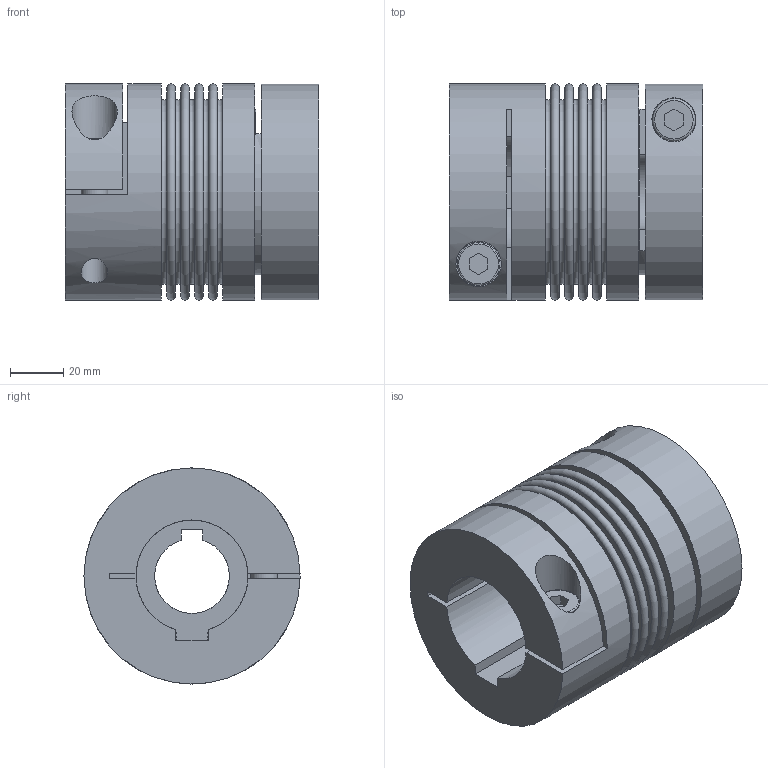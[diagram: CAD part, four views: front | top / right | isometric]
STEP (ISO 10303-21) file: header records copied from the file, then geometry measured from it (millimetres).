
FILE_DESCRIPTION(/* description */ ('STEP AP214'),/* implementation_level */ '2;1');
FILE_NAME(/* name */ 'C:\Diequa Files\DieQua Coupling\BCB\STP\BCB.150.95.#.#.stp',/* time_stamp */ '2018-11-27T08:23:08-06:00',/* author */ ('DiequaCAD'),/* organization */ (''),/* preprocessor_version */ 'ST-DEVELOPER v17.2',/* originating_system */ 'Autodesk Inventor 2019',/* authorisation */ ' ');
FILE_SCHEMA (('AUTOMOTIVE_DESIGN { 1 0 10303 214 3 1 1 }'));
Length unit declared in the file: millimetre
Products named in the file (4): BK5_150_95_42_PFN_28_PFN_86; 2018_11_09__18-09-23-391; 2018_11_09__18-09-23-391_1; 2018_11_09__18-09-23-391_2
Assembly tree (3 placements, depth 2):
  BK5_150_95_42_PFN_28_PFN_86
    2018_11_09__18-09-23-391
    2018_11_09__18-09-23-391_1
    2018_11_09__18-09-23-391_2
Bounding box: 95 x 81 x 81 mm (x, y, z)
Volume: 311044.4 mm3; surface area: 90756.8 mm2
Topology: 3 solids, 3 shells, 127 faces, 344 edges, 243 vertices
Faces by surface type: plane 67, cylinder 35, cone 13, torus 12
Full cylindrical faces by diameter (mm): 10 x4, 10.5 x1, 16 x2, 16.5 x1, 17 x1, 62 x1, 65 x1, 67 x1, 69.034 x1, 81 x2
Entity records: 4491 total; most frequent: CARTESIAN_POINT 945, DIRECTION 755, ORIENTED_EDGE 688, EDGE_CURVE 344, AXIS2_PLACEMENT_3D 309, VERTEX_POINT 243, CIRCLE 175, EDGE_LOOP 157
